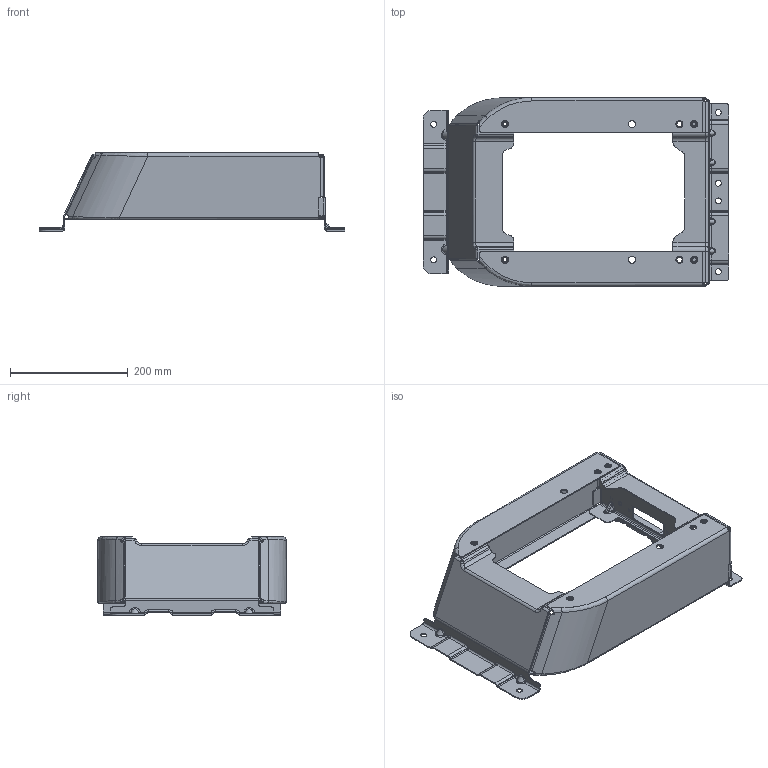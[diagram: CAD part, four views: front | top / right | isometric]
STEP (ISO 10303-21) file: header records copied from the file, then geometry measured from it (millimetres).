
FILE_DESCRIPTION(('CATIA V5 STEP Exchange'),'2;1');
FILE_NAME('E:\李燕龙\吉利商用车G3\07 设计变更\ECR0009849--标配底支架后移50mm设计变更\数据图纸\SHT0015277.stp','2023-10-23T06:43:13+00:00',('none'),('none'),'CATIA Version 5 Release 20 GA (IN-10)','CATIA V5 STEP AP214','none');
FILE_SCHEMA(('AUTOMOTIVE_DESIGN { 1 0 10303 214 1 1 1 1 }'));
Products named in the file (1): SHT00105277
Bounding box: 519 x 320 x 132.7 mm (x, y, z)
Volume: 549927.1 mm3; surface area: 585721.4 mm2
Topology: 10 solids, 10 shells, 1105 faces, 2978 edges, 1861 vertices
Faces by surface type: cylinder 483, plane 378, cone 96, bspline 76, sphere 32, torus 24, extrusion 16
Entity records: 44031 total; most frequent: CARTESIAN_POINT 18779, ORIENTED_EDGE 5892, DIRECTION 3949, EDGE_CURVE 2946, VERTEX_POINT 1861, AXIS2_PLACEMENT_3D 1584, VECTOR 1453, LINE 1437
